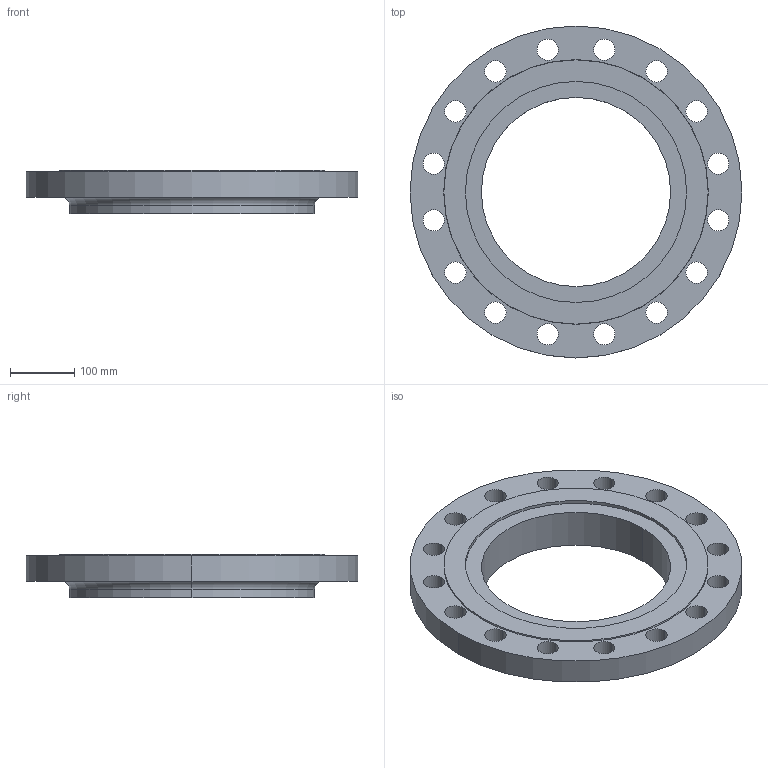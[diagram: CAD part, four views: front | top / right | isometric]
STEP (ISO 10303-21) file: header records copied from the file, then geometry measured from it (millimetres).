
FILE_DESCRIPTION (( 'STEP AP214' ), '1' );
FILE_NAME ('PN40 DN300 Type 13 - Type G Face.STEP', '2019-01-05T20:18:34', ( '' ), ( '' ), 'SwSTEP 2.0', 'SolidWorks 2019', '' );
FILE_SCHEMA (( 'AUTOMOTIVE_DESIGN' ));
Length unit declared in the file: millimetre
Products named in the file (1): PN40 DN300 Type 13 - Type G Face
Bounding box: 515 x 515 x 67 mm (x, y, z)
Volume: 6265283.7 mm3; surface area: 473476 mm2
Topology: 1 solids, 1 shells, 49 faces, 130 edges, 86 vertices
Faces by surface type: cylinder 40, plane 5, torus 2, cone 2
Entity records: 1678 total; most frequent: DIRECTION 318, CARTESIAN_POINT 266, ORIENTED_EDGE 260, AXIS2_PLACEMENT_3D 138, EDGE_CURVE 130, CIRCLE 88, VERTEX_POINT 86, EDGE_LOOP 86
